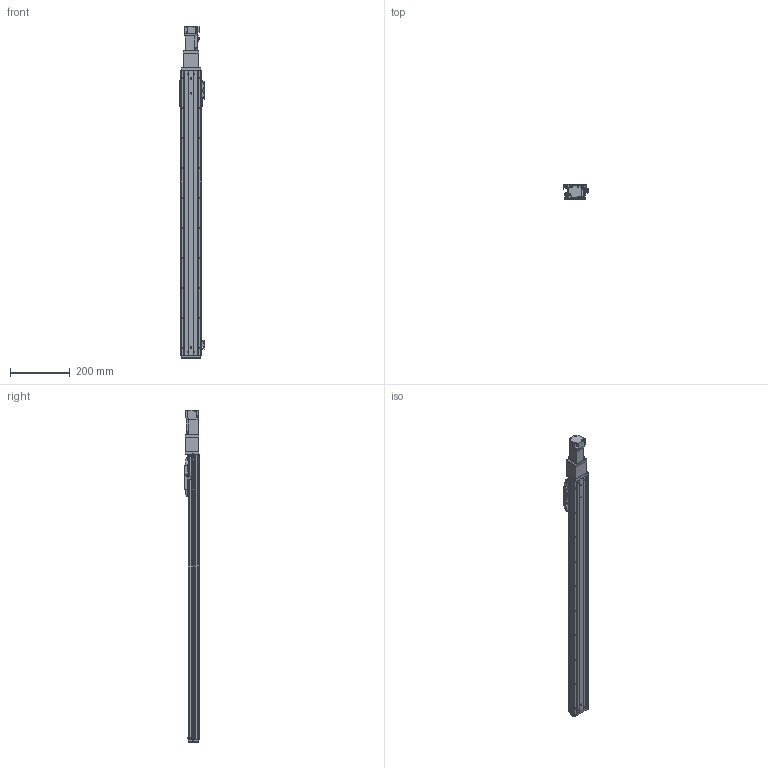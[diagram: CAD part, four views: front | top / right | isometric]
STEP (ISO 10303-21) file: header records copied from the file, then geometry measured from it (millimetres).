
FILE_DESCRIPTION (( 'STEP AP214' ), '1' );
FILE_NAME ('CTHA60-800-BC-M10-C4L.step', '2022-03-19T06:11:30', ( '微软用户' ), ( '微软中国' ), 'SwSTEP 2.0', 'SolidWorks 2020', '' );
FILE_SCHEMA (( 'AUTOMOTIVE_DESIGN' ));
Length unit declared in the file: millimetre
Products named in the file (19): GB¨uT 70.2-M3¡Á6_M3¡Á6; CTHA60-031; CTHA60-021; GBT 70.1-M3℅6; CTHA60-027; CTHA60-004; HG-KR13（三菱）; EE_SX911P_R; CTHA60-800-BC-M10-C4L; GBT 70.1-M4×16; GBT 70.3-M3℅6; CTHA60-013; CTHA60-005; CTHA60-002; CTHA60-017; GBT77-2000 M3×3; CTHA60-016; CTHA60-001_950; CTHA60-006
Assembly tree (57 placements, depth 2):
  CTHA60-800-BC-M10-C4L
    CTHA60-001_950
    CTHA60-004
    CTHA60-005
    GB¨uT 70.2-M3¡Á6_M3¡Á6  x10
    EE_SX911P_R  x3
    CTHA60-017  x3
    CTHA60-021  x2
    GBT 70.1-M4×16  x10
    GBT77-2000 M3×3  x6
    GBT 70.1-M3℅6  x6
    GBT 70.3-M3℅6  x6
    CTHA60-016  x2
    CTHA60-027
    CTHA60-013
    CTHA60-006
    HG-KR13（三菱）
    CTHA60-002
    CTHA60-031
Bounding box: 83.12 x 48 x 1108.6 mm (x, y, z)
Volume: 1742611.2 mm3; surface area: 482671.8 mm2
Topology: 59 solids, 59 shells, 2515 faces, 6021 edges, 3695 vertices
Faces by surface type: plane 1462, cylinder 567, cone 366, torus 96, sphere 24
Entity records: 41048 total; most frequent: CARTESIAN_POINT 6928, DIRECTION 6822, ORIENTED_EDGE 6622, EDGE_CURVE 3311, VECTOR 2442, LINE 2442, AXIS2_PLACEMENT_3D 2190, VERTEX_POINT 2092
